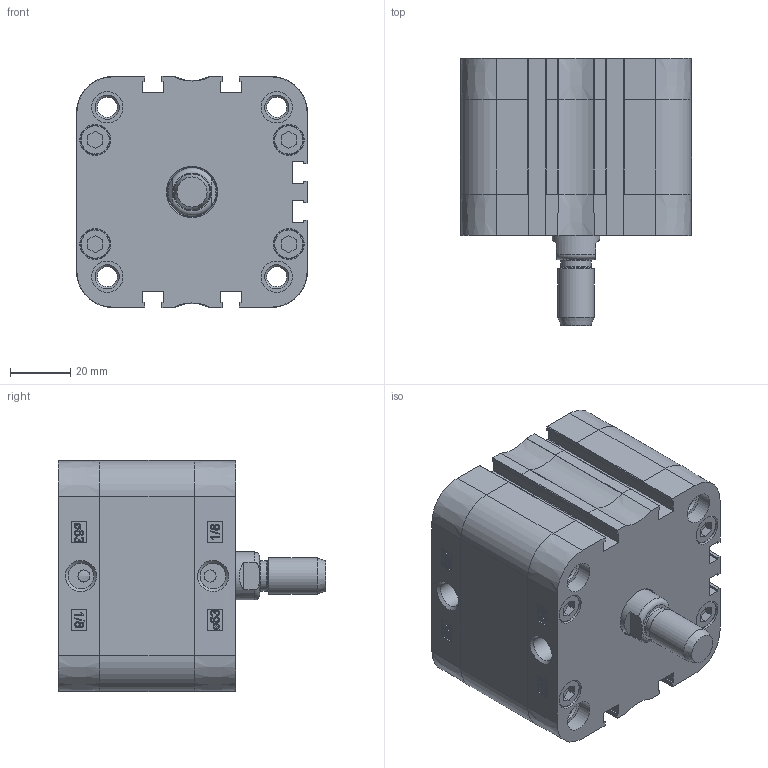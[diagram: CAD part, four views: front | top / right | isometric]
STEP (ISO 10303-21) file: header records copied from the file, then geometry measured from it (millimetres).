
FILE_DESCRIPTION((''),'2;1');
FILE_NAME('T:\Archivio Inventor\- CATALOGHI 2012\SERIE P - NUOVA\PDM\PDM063\PDM063.---.GS.M\PDM063.010.GS.M.stp','2013-02-04T09:18:24',('Administrator'),(''),'Autodesk Inventor 2012','Autodesk Inventor 2012','');
FILE_SCHEMA(('CONFIG_CONTROL_DESIGN'));
Length unit declared in the file: millimetre
Products named in the file (1): PDM063.010.GS.M
Bounding box: 77 x 89 x 77 mm (x, y, z)
Volume: 191950.5 mm3; surface area: 71687.5 mm2
Topology: 1 solids, 5 shells, 824 faces, 1993 edges, 1252 vertices
Faces by surface type: plane 346, bspline 218, cylinder 142, torus 55, cone 45, sphere 18
Full cylindrical faces by diameter (mm): 4 x2, 6.3 x4, 6.647 x8, 8.047 x4, 8.566 x2, 9.8 x8, 10 x1, 10.3 x8, 10.5 x8, 12 x2, 16 x1, 16.5 x1, 63 x1, 65.4 x1, 65.6 x1
Entity records: 27348 total; most frequent: CARTESIAN_POINT 9100, ORIENTED_EDGE 3744, DIRECTION 3031, EDGE_CURVE 1872, VERTEX_POINT 1231, AXIS2_PLACEMENT_3D 1026, EDGE_LOOP 1003, VECTOR 979
